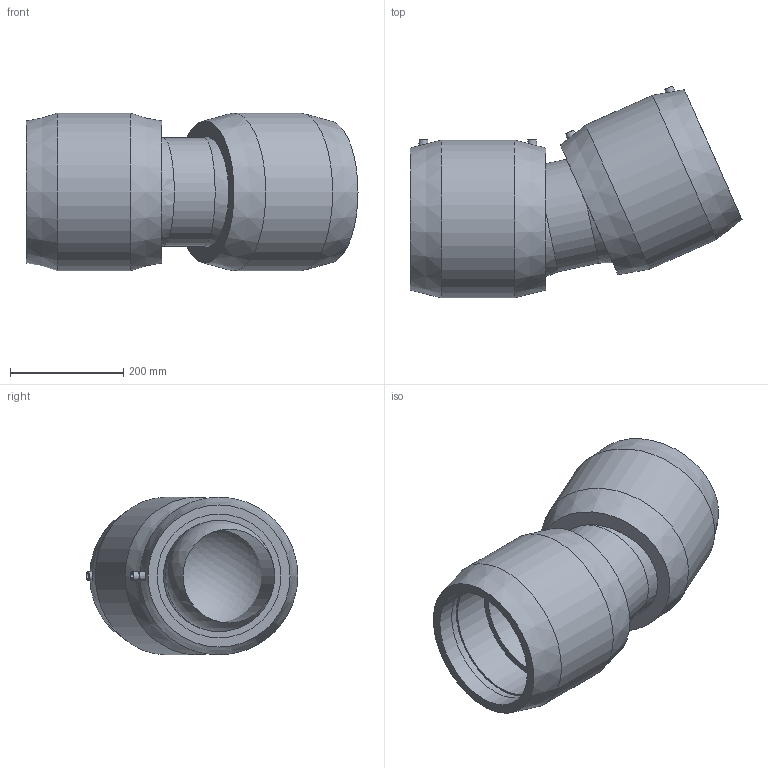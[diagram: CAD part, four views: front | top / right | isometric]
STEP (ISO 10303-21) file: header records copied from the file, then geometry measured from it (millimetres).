
FILE_DESCRIPTION(/* description */ ('PLASSON ADJUSTABLE ELBOW ASTM 8'''''),/* implementation_level */ '2;1');
FILE_NAME(/* name */ 'C:\Dropbox\KIMPROJECTS-Inventor 2019\99-16-3568-Processing Inch\ASTM ElectroFusion 2021\5947B\5947B003080.ipt.stp',/* time_stamp */ '2021-08-30T09:53:05+03:00',/* author */ ('KIM'),/* organization */ (''),/* preprocessor_version */ 'ST-DEVELOPER v17.2',/* originating_system */ 'Autodesk Inventor 2019',/* authorisation */ '');
FILE_SCHEMA (('AUTOMOTIVE_DESIGN { 1 0 10303 214 3 1 1 }'));
Length unit declared in the file: inch
Products named in the file (1): 5947B003080
Bounding box: 586.84 x 374.48 x 278.89 mm (x, y, z)
Volume: 13485116.5 mm3; surface area: 1103238.3 mm2
Topology: 1 solids, 1 shells, 51 faces, 112 edges, 80 vertices
Faces by surface type: plane 20, cylinder 18, cone 10, sphere 3
Full cylindrical faces by diameter (mm): 4 x4, 10 x4, 165.606 x1, 191.504 x1, 196.83 x2, 218.7 x4, 278.892 x2
Entity records: 1828 total; most frequent: CARTESIAN_POINT 584, DIRECTION 274, ORIENTED_EDGE 224, AXIS2_PLACEMENT_3D 123, EDGE_CURVE 112, VERTEX_POINT 80, EDGE_LOOP 72, CIRCLE 72
